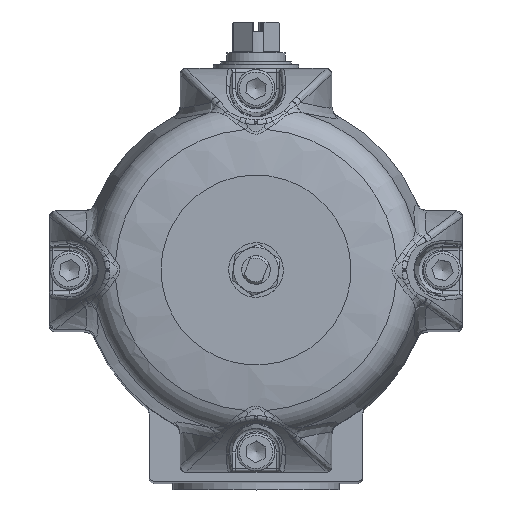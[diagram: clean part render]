
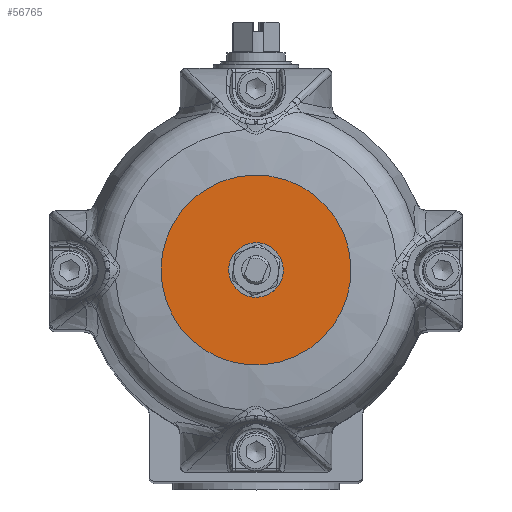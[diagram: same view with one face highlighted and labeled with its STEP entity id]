
A CAD part, top view. The second image highlights one B-rep face of the part: STEP entity #56765.
In plain terms, the highlighted planar face has unit normal (0, 0, 1).
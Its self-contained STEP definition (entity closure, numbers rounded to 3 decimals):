
#793=CARTESIAN_POINT('',(-5.13,-6.778,326.5));
#794=VERTEX_POINT('',#793);
#795=CARTESIAN_POINT('',(0.,0.,326.5));
#796=DIRECTION('',(0.,0.,-1.0));
#797=DIRECTION('',(-0.603,-0.797,0.));
#798=AXIS2_PLACEMENT_3D('',#795,#796,#797);
#799=CIRCLE('',#798,8.5);
#800=EDGE_CURVE('',#794,#794,#799,.T.);
#56746=CARTESIAN_POINT('',(-20.,0.,326.5));
#56747=DIRECTION('',(0.0,0.0,1.0));
#56748=DIRECTION('',(0.0,-1.0,0.0));
#56749=AXIS2_PLACEMENT_3D('',#56746,#56747,#56748);
#56750=PLANE('',#56749);
#56751=CARTESIAN_POINT('',(-40.,0.,326.5));
#56752=VERTEX_POINT('',#56751);
#56753=CARTESIAN_POINT('',(0.,0.,326.5));
#56754=DIRECTION('',(0.0,0.0,-1.0));
#56755=DIRECTION('',(-1.0,0.0,0.0));
#56756=AXIS2_PLACEMENT_3D('',#56753,#56754,#56755);
#56757=CIRCLE('',#56756,40.0);
#56758=EDGE_CURVE('',#56752,#56752,#56757,.T.);
#56759=ORIENTED_EDGE('',*,*,#56758,.F.);
#56760=EDGE_LOOP('',(#56759));
#56761=FACE_OUTER_BOUND('',#56760,.T.);
#56762=ORIENTED_EDGE('',*,*,#800,.T.);
#56763=EDGE_LOOP('',(#56762));
#56764=FACE_BOUND('',#56763,.T.);
#56765=ADVANCED_FACE('',(#56761,#56764),#56750,.T.);
